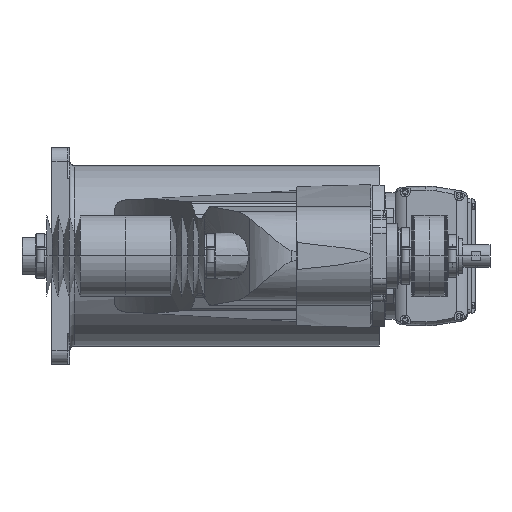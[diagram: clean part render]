
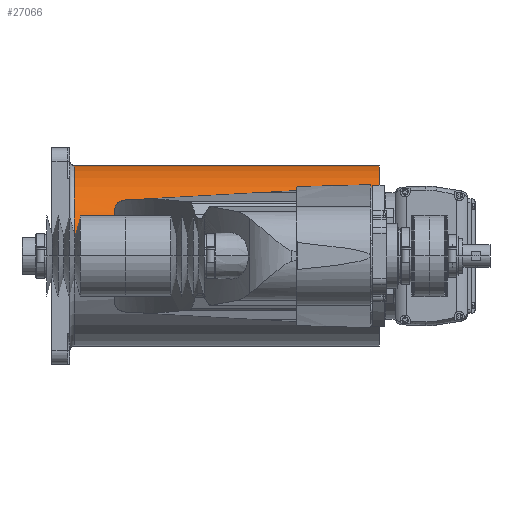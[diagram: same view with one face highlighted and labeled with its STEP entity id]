
A CAD part, left-side view. The second image highlights one B-rep face of the part: STEP entity #27066.
In plain terms, the highlighted cylindrical face has radius 100 mm (diameter 200 mm), a partial arc.
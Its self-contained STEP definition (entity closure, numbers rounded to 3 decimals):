
#10800 = EDGE_CURVE( '', #29572, #21834, #31411, .T. );
#11352 = VERTEX_POINT( '', #32018 );
#11540 = VERTEX_POINT( '', #32228 );
#12744 = EDGE_CURVE( '', #11352, #14438, #33574, .T. );
#12906 = VERTEX_POINT( '', #33751 );
#13718 = EDGE_CURVE( '', #25524, #14438, #34644, .T. );
#14438 = VERTEX_POINT( '', #35444 );
#16472 = EDGE_CURVE( '', #19580, #12906, #37717, .T. );
#18652 = EDGE_CURVE( '', #26516, #22828, #40160, .T. );
#19000 = VERTEX_POINT( '', #40540 );
#19472 = EDGE_CURVE( '', #25342, #29572, #41099, .T. );
#19580 = VERTEX_POINT( '', #41220 );
#20470 = EDGE_CURVE( '', #23134, #25342, #42219, .T. );
#20854 = EDGE_CURVE( '', #12906, #11352, #42639, .T. );
#21834 = VERTEX_POINT( '', #43752 );
#22584 = EDGE_CURVE( '', #27334, #19000, #44600, .T. );
#22828 = VERTEX_POINT( '', #44874 );
#23134 = VERTEX_POINT( '', #45213 );
#23294 = EDGE_CURVE( '', #21834, #27334, #45394, .T. );
#23478 = EDGE_CURVE( '', #25686, #11540, #45596, .T. );
#25164 = EDGE_CURVE( '', #19580, #11540, #47463, .T. );
#25342 = VERTEX_POINT( '', #47666 );
#25518 = EDGE_CURVE( '', #22828, #25686, #47866, .T. );
#25524 = VERTEX_POINT( '', #47872 );
#25686 = VERTEX_POINT( '', #48055 );
#25882 = EDGE_CURVE( '', #26230, #25524, #48275, .T. );
#26230 = VERTEX_POINT( '', #48661 );
#26516 = VERTEX_POINT( '', #48972 );
#27066 = ADVANCED_FACE( '', ( #49580 ), #49581, .T. );
#27334 = VERTEX_POINT( '', #49871 );
#27472 = EDGE_CURVE( '', #23134, #26230, #50015, .T. );
#29572 = VERTEX_POINT( '', #52381 );
#29798 = EDGE_CURVE( '', #19000, #26516, #52634, .T. );
#31411 = CIRCLE( '', #54616, 100. );
#32018 = CARTESIAN_POINT( '', ( -88., 218.3, 47.497 ) );
#32228 = CARTESIAN_POINT( '', ( -100., 363., 0. ) );
#33574 = CIRCLE( '', #57758, 100. );
#33751 = CARTESIAN_POINT( '', ( -88., 311.3, 47.497 ) );
#34644 = LINE( '', #59334, #59335 );
#35444 = CARTESIAN_POINT( '', ( -100., 218.3, 0. ) );
#37717 = CIRCLE( '', #63640, 100. );
#40160 = LINE( '', #67216, #67217 );
#40540 = CARTESIAN_POINT( '', ( 70.42, 64., 71. ) );
#41099 = LINE( '', #68527, #68528 );
#41220 = CARTESIAN_POINT( '', ( -100., 311.3, 0. ) );
#42219 = CIRCLE( '', #70039, 100. );
#42639 = LINE( '', #70722, #70723 );
#43752 = CARTESIAN_POINT( '', ( 75.993, 62., 65. ) );
#44600 = CIRCLE( '', #73587, 100. );
#44874 = CARTESIAN_POINT( '', ( 66.144, 363., 75. ) );
#45213 = CARTESIAN_POINT( '', ( 100., 64., 0. ) );
#45394 = LINE( '', #74764, #74765 );
#45596 = CIRCLE( '', #75062, 100. );
#47463 = LINE( '', #77768, #77769 );
#47666 = CARTESIAN_POINT( '', ( 89.303, 64., 45. ) );
#47866 = CIRCLE( '', #78351, 100. );
#47872 = CARTESIAN_POINT( '', ( -100., 25., 0. ) );
#48055 = CARTESIAN_POINT( '', ( 0., 363., 100. ) );
#48275 = CIRCLE( '', #78923, 100. );
#48661 = CARTESIAN_POINT( '', ( 100., 25., 0. ) );
#48972 = CARTESIAN_POINT( '', ( 66.144, 68., 75. ) );
#49580 = FACE_OUTER_BOUND( '', #80887, .T. );
#49581 = CYLINDRICAL_SURFACE( '', #80888, 100. );
#49871 = CARTESIAN_POINT( '', ( 75.993, 64., 65. ) );
#50015 = LINE( '', #81562, #81563 );
#52381 = CARTESIAN_POINT( '', ( 89.303, 62., 45. ) );
#52634 = B_SPLINE_CURVE_WITH_KNOTS( '', 3, ( #85397, #85398, #85399, #85400, #85401, #85402, #85403, #85404, #85405, #85406, #85407, #85408, #85409, #85410, #85411, #85412, #85413, #85414 ), .UNSPECIFIED., .F., .F., ( 4, 2, 2, 2, 2, 2, 2, 2, 4 ), ( -7.48, -6.36, -5.24, -4.12, -3., -2.25, -1.5, -0.75, 0. ), .UNSPECIFIED. );
#54616 = AXIS2_PLACEMENT_3D( '', #87712, #87713, #87714 );
#57758 = AXIS2_PLACEMENT_3D( '', #90242, #90243, #90244 );
#59334 = CARTESIAN_POINT( '', ( -100., 194., 0. ) );
#59335 = VECTOR( '', #91393, 1. );
#63640 = AXIS2_PLACEMENT_3D( '', #94940, #94941, #94942 );
#67216 = CARTESIAN_POINT( '', ( 66.144, 215.5, 75. ) );
#67217 = VECTOR( '', #97810, 1. );
#68527 = CARTESIAN_POINT( '', ( 89.303, 63., 45. ) );
#68528 = VECTOR( '', #98997, 1. );
#70039 = AXIS2_PLACEMENT_3D( '', #100327, #100328, #100329 );
#70722 = CARTESIAN_POINT( '', ( -88., 264.8, 47.497 ) );
#70723 = VECTOR( '', #100753, 1. );
#73587 = AXIS2_PLACEMENT_3D( '', #103206, #103207, #103208 );
#74764 = CARTESIAN_POINT( '', ( 75.993, 63., 65. ) );
#74765 = VECTOR( '', #104189, 1. );
#75062 = AXIS2_PLACEMENT_3D( '', #104370, #104371, #104372 );
#77768 = CARTESIAN_POINT( '', ( -100., 194., 0. ) );
#77769 = VECTOR( '', #106457, 1. );
#78351 = AXIS2_PLACEMENT_3D( '', #106940, #106941, #106942 );
#78923 = AXIS2_PLACEMENT_3D( '', #107417, #107418, #107419 );
#80887 = EDGE_LOOP( '', ( #108840, #108841, #108842, #108843, #108844, #108845, #108846, #108847, #108848, #108849, #108850, #108851, #108852, #108853, #108854, #108855 ) );
#80888 = AXIS2_PLACEMENT_3D( '', #108856, #108857, #108858 );
#81562 = CARTESIAN_POINT( '', ( 100., 194., 0. ) );
#81563 = VECTOR( '', #109266, 1. );
#85397 = CARTESIAN_POINT( '', ( 70.42, 64., 71. ) );
#85398 = CARTESIAN_POINT( '', ( 70.155, 64., 71.263 ) );
#85399 = CARTESIAN_POINT( '', ( 69.877, 64.026, 71.535 ) );
#85400 = CARTESIAN_POINT( '', ( 69.316, 64.139, 72.08 ) );
#85401 = CARTESIAN_POINT( '', ( 69.031, 64.224, 72.352 ) );
#85402 = CARTESIAN_POINT( '', ( 68.475, 64.457, 72.879 ) );
#85403 = CARTESIAN_POINT( '', ( 68.203, 64.604, 73.134 ) );
#85404 = CARTESIAN_POINT( '', ( 67.688, 64.954, 73.61 ) );
#85405 = CARTESIAN_POINT( '', ( 67.446, 65.158, 73.831 ) );
#85406 = CARTESIAN_POINT( '', ( 67.082, 65.542, 74.162 ) );
#85407 = CARTESIAN_POINT( '', ( 66.938, 65.716, 74.292 ) );
#85408 = CARTESIAN_POINT( '', ( 66.674, 66.103, 74.529 ) );
#85409 = CARTESIAN_POINT( '', ( 66.555, 66.315, 74.636 ) );
#85410 = CARTESIAN_POINT( '', ( 66.356, 66.766, 74.812 ) );
#85411 = CARTESIAN_POINT( '', ( 66.277, 67.005, 74.882 ) );
#85412 = CARTESIAN_POINT( '', ( 66.171, 67.497, 74.976 ) );
#85413 = CARTESIAN_POINT( '', ( 66.144, 67.75, 75. ) );
#85414 = CARTESIAN_POINT( '', ( 66.144, 68., 75. ) );
#87712 = CARTESIAN_POINT( '', ( 0., 62., 0. ) );
#87713 = DIRECTION( '', ( 0., -1., 0. ) );
#87714 = DIRECTION( '', ( 1., 0., 0. ) );
#90242 = CARTESIAN_POINT( '', ( 0., 218.3, 0. ) );
#90243 = DIRECTION( '', ( 0., -1., 0. ) );
#90244 = DIRECTION( '', ( 1., 0., 0. ) );
#91393 = DIRECTION( '', ( 0., 1., 0. ) );
#94940 = CARTESIAN_POINT( '', ( 0., 311.3, 0. ) );
#94941 = DIRECTION( '', ( 0., 1., 0. ) );
#94942 = DIRECTION( '', ( 1., 0., 0. ) );
#97810 = DIRECTION( '', ( 0., 1., 0. ) );
#98997 = DIRECTION( '', ( 0., -1., 0. ) );
#100327 = CARTESIAN_POINT( '', ( 0., 64., 0. ) );
#100328 = DIRECTION( '', ( 0., -1., 0. ) );
#100329 = DIRECTION( '', ( 1., 0., 0. ) );
#100753 = DIRECTION( '', ( 0., -1., 0. ) );
#103206 = CARTESIAN_POINT( '', ( 0., 64., 0. ) );
#103207 = DIRECTION( '', ( 0., -1., 0. ) );
#103208 = DIRECTION( '', ( 1., 0., 0. ) );
#104189 = DIRECTION( '', ( 0., 1., 0. ) );
#104370 = CARTESIAN_POINT( '', ( 0., 363., 0. ) );
#104371 = DIRECTION( '', ( 0., -1., 0. ) );
#104372 = DIRECTION( '', ( 1., 0., 0. ) );
#106457 = DIRECTION( '', ( 0., 1., 0. ) );
#106940 = CARTESIAN_POINT( '', ( 0., 363., 0. ) );
#106941 = DIRECTION( '', ( 0., -1., 0. ) );
#106942 = DIRECTION( '', ( 1., 0., 0. ) );
#107417 = CARTESIAN_POINT( '', ( 0., 25., 0. ) );
#107418 = DIRECTION( '', ( 0., -1., 0. ) );
#107419 = DIRECTION( '', ( 1., 0., 0. ) );
#108840 = ORIENTED_EDGE( '', *, *, #27472, .F. );
#108841 = ORIENTED_EDGE( '', *, *, #20470, .T. );
#108842 = ORIENTED_EDGE( '', *, *, #19472, .T. );
#108843 = ORIENTED_EDGE( '', *, *, #10800, .T. );
#108844 = ORIENTED_EDGE( '', *, *, #23294, .T. );
#108845 = ORIENTED_EDGE( '', *, *, #22584, .T. );
#108846 = ORIENTED_EDGE( '', *, *, #29798, .T. );
#108847 = ORIENTED_EDGE( '', *, *, #18652, .T. );
#108848 = ORIENTED_EDGE( '', *, *, #25518, .T. );
#108849 = ORIENTED_EDGE( '', *, *, #23478, .T. );
#108850 = ORIENTED_EDGE( '', *, *, #25164, .F. );
#108851 = ORIENTED_EDGE( '', *, *, #16472, .T. );
#108852 = ORIENTED_EDGE( '', *, *, #20854, .T. );
#108853 = ORIENTED_EDGE( '', *, *, #12744, .T. );
#108854 = ORIENTED_EDGE( '', *, *, #13718, .F. );
#108855 = ORIENTED_EDGE( '', *, *, #25882, .F. );
#108856 = CARTESIAN_POINT( '', ( 0., 194., 0. ) );
#108857 = DIRECTION( '', ( 0., 1., 0. ) );
#108858 = DIRECTION( '', ( 1., 0., 0. ) );
#109266 = DIRECTION( '', ( 0., -1., 0. ) );
